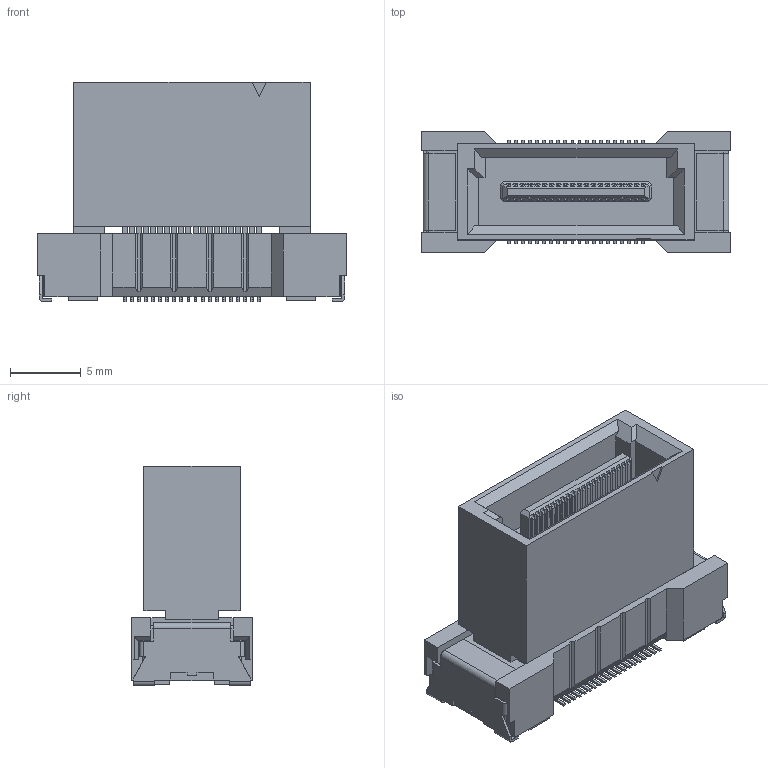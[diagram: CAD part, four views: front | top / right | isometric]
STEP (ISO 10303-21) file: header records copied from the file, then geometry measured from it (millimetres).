
FILE_DESCRIPTION(('Creo Elements/Direct Modeling STEP Export'),'2;1');
FILE_NAME('P3E104_DT00-040FS-10-T.stp','2022-02-25T17:41:39',(''),(''),'Creo Elements/Direct Modeling STEP processor for AP214 (Solid Model)','Creo Elements/Direct Modeling 20.4A 18-Oct-2021 (C) Parametric Technology GmbH','');
FILE_SCHEMA(('AUTOMOTIVE_DESIGN { 1 0 10303 214 1 1 1 1 }'));
Length unit declared in the file: millimetre
Products named in the file (2): P3E104_DT00-040FS-10-T
Assembly tree (1 placements, depth 2):
  P3E104_DT00-040FS-10-T
    P3E104_DT00-040FS-10-T
Bounding box: 21.8 x 8.5 x 15.5 mm (x, y, z)
Volume: 1654.1 mm3; surface area: 1657.5 mm2
Topology: 1 solids, 1 shells, 1285 faces, 3613 edges, 2370 vertices
Faces by surface type: plane 1179, cylinder 106
Entity records: 40102 total; most frequent: ORIENTED_EDGE 7226, CARTESIAN_POINT 7098, DIRECTION 6181, EDGE_CURVE 3613, VECTOR 3275, LINE 3275, VERTEX_POINT 2370, AXIS2_PLACEMENT_3D 1453
